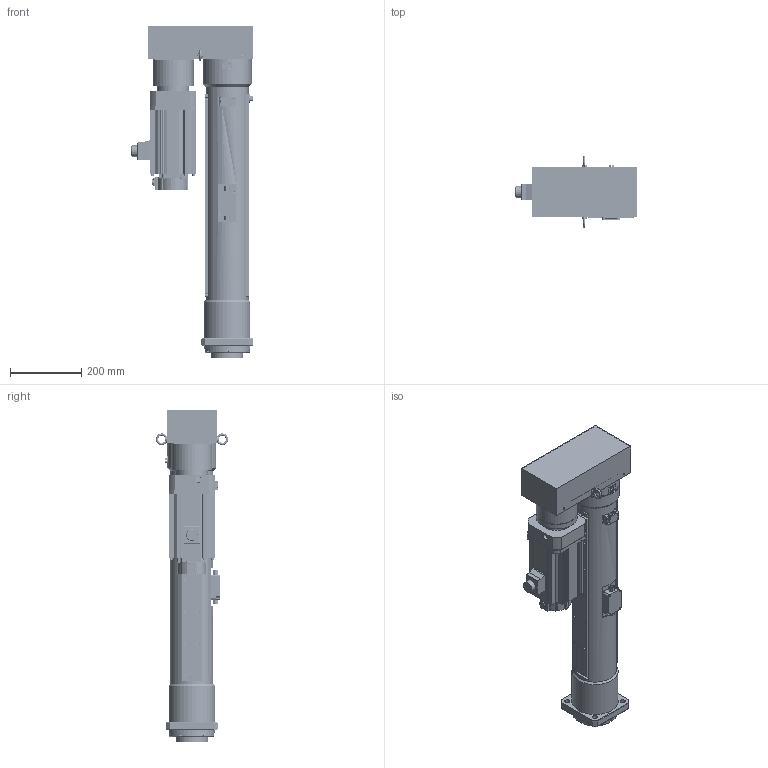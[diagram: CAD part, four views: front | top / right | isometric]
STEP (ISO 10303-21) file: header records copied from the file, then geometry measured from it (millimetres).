
FILE_DESCRIPTION( ('This file contains a STEP AP42 implementation' ,'as created by ZW3D STEP Interface translator.') ,'2;1' );
FILE_NAME( 'OACIS-DC-P035-P040-300-180-A6V200_V20.51.stp' ,'26 424.181136', (''), ('ZWCAD Software Co.'), 'Version 1.0', 'ZW3D to STEP translator', '' );
FILE_SCHEMA(('AUTOMOTIVE_DESIGN { 1 0 10303 214 1 1 1 1 }'));
Length unit declared in the file: millimetre
Products named in the file (1): 0
Bounding box: 342.5 x 202.25 x 931 mm (x, y, z)
Volume: 15183159.9 mm3; surface area: 2318380.6 mm2
Topology: 55 solids, 55 shells, 3463 faces, 8873 edges, 5678 vertices
Faces by surface type: cylinder 1728, plane 1247, cone 355, torus 101, bspline 28, sphere 4
Full cylindrical faces by diameter (mm): 1.567 x4, 2 x1, 2.459 x1, 3.3 x91, 4.2 x4, 4.3 x30, 4.5 x14, 4.917 x20, 5 x1, 5.3 x4, 5.5 x4, 6 x8, 6.5 x4, 6.647 x6, 6.8 x41, 7 x4, 8 x32, 8.4 x8, 8.5 x5, 9 x26, 9.5 x4, 9.78 x8, 10 x3, 10.1 x4, 10.106 x1, 10.2 x16, 10.5 x4, 12 x1, 14 x4, 14.8 x1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
Entity records: 127097 total; most frequent: CARTESIAN_POINT 33234, DIRECTION 19636, ORIENTED_EDGE 17524, EDGE_CURVE 8762, AXIS2_PLACEMENT_3D 7822, VERTEX_POINT 5675, CIRCLE 4367, EDGE_LOOP 4127
